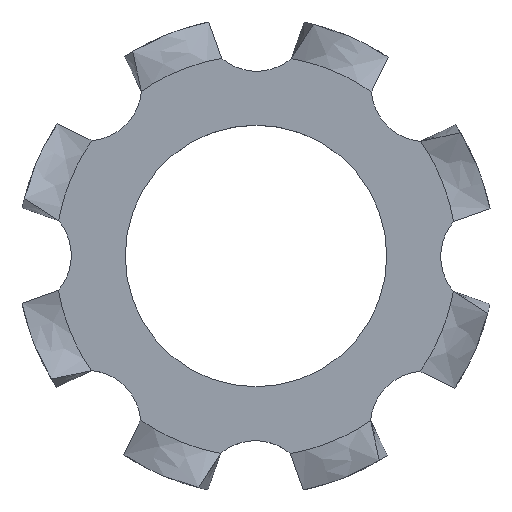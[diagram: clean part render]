
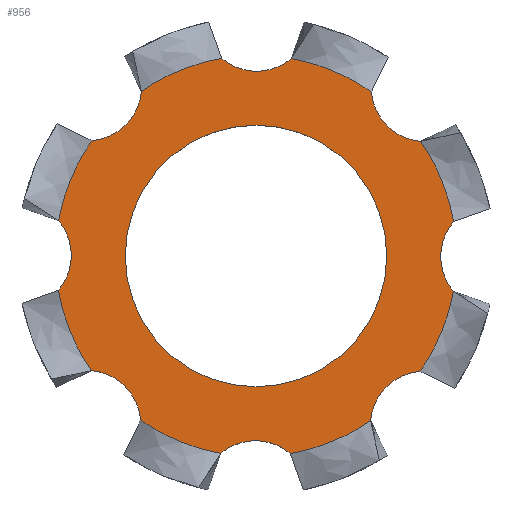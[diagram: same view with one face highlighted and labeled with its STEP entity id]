
A CAD part, top view. The second image highlights one B-rep face of the part: STEP entity #956.
In plain terms, the highlighted planar face has unit normal (0, 0, 1).
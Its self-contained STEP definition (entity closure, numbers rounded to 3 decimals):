
#15=FACE_BOUND('',#300,.T.);
#17=PLANE('',#1039);
#35=CIRCLE('',#996,4.2);
#36=CIRCLE('',#997,4.2);
#37=CIRCLE('',#998,4.2);
#38=CIRCLE('',#999,4.2);
#39=CIRCLE('',#1000,4.2);
#40=CIRCLE('',#1001,4.2);
#41=CIRCLE('',#1002,4.2);
#42=CIRCLE('',#1003,4.2);
#43=CIRCLE('',#1004,4.2);
#44=CIRCLE('',#1005,4.2);
#45=CIRCLE('',#1006,4.2);
#46=CIRCLE('',#1007,4.2);
#47=CIRCLE('',#1008,4.2);
#48=CIRCLE('',#1009,4.2);
#49=CIRCLE('',#1010,4.2);
#50=CIRCLE('',#1011,4.2);
#51=CIRCLE('',#1013,2.74);
#54=CIRCLE('',#1017,1.13);
#56=CIRCLE('',#1020,1.13);
#58=CIRCLE('',#1023,1.13);
#60=CIRCLE('',#1026,1.13);
#62=CIRCLE('',#1029,1.13);
#64=CIRCLE('',#1032,1.13);
#66=CIRCLE('',#1035,1.13);
#68=CIRCLE('',#1038,1.13);
#248=FACE_OUTER_BOUND('',#299,.T.);
#299=EDGE_LOOP('',(#840,#841,#842,#843,#844,#845,#846,#847,#848,#849,#850,
#851,#852,#853,#854,#855,#856,#857,#858,#859,#860,#861,#862,#863));
#300=EDGE_LOOP('',(#864));
#400=VERTEX_POINT('',#1577);
#404=VERTEX_POINT('',#1619);
#408=VERTEX_POINT('',#1661);
#412=VERTEX_POINT('',#1703);
#416=VERTEX_POINT('',#1745);
#420=VERTEX_POINT('',#1787);
#424=VERTEX_POINT('',#1829);
#428=VERTEX_POINT('',#1871);
#431=VERTEX_POINT('',#1911);
#432=VERTEX_POINT('',#1930);
#433=VERTEX_POINT('',#1949);
#434=VERTEX_POINT('',#1968);
#435=VERTEX_POINT('',#1987);
#436=VERTEX_POINT('',#2006);
#437=VERTEX_POINT('',#2025);
#438=VERTEX_POINT('',#2044);
#439=VERTEX_POINT('',#2063);
#440=VERTEX_POINT('',#2082);
#441=VERTEX_POINT('',#2101);
#442=VERTEX_POINT('',#2120);
#443=VERTEX_POINT('',#2139);
#444=VERTEX_POINT('',#2158);
#445=VERTEX_POINT('',#2177);
#446=VERTEX_POINT('',#2196);
#447=VERTEX_POINT('',#2200);
#547=EDGE_CURVE('',#432,#400,#35,.F.);
#548=EDGE_CURVE('',#431,#432,#36,.F.);
#551=EDGE_CURVE('',#434,#404,#37,.F.);
#552=EDGE_CURVE('',#433,#434,#38,.F.);
#555=EDGE_CURVE('',#436,#408,#39,.F.);
#556=EDGE_CURVE('',#435,#436,#40,.F.);
#559=EDGE_CURVE('',#438,#412,#41,.F.);
#560=EDGE_CURVE('',#437,#438,#42,.F.);
#563=EDGE_CURVE('',#440,#416,#43,.F.);
#564=EDGE_CURVE('',#439,#440,#44,.F.);
#567=EDGE_CURVE('',#442,#420,#45,.F.);
#568=EDGE_CURVE('',#441,#442,#46,.F.);
#571=EDGE_CURVE('',#444,#424,#47,.F.);
#572=EDGE_CURVE('',#443,#444,#48,.F.);
#575=EDGE_CURVE('',#446,#428,#49,.F.);
#576=EDGE_CURVE('',#445,#446,#50,.F.);
#577=EDGE_CURVE('',#447,#447,#51,.T.);
#581=EDGE_CURVE('',#404,#431,#54,.T.);
#583=EDGE_CURVE('',#408,#433,#56,.T.);
#585=EDGE_CURVE('',#412,#435,#58,.T.);
#587=EDGE_CURVE('',#416,#437,#60,.T.);
#589=EDGE_CURVE('',#420,#439,#62,.T.);
#591=EDGE_CURVE('',#424,#441,#64,.T.);
#593=EDGE_CURVE('',#428,#443,#66,.T.);
#595=EDGE_CURVE('',#400,#445,#68,.T.);
#840=ORIENTED_EDGE('',*,*,#548,.T.);
#841=ORIENTED_EDGE('',*,*,#547,.T.);
#842=ORIENTED_EDGE('',*,*,#595,.T.);
#843=ORIENTED_EDGE('',*,*,#576,.T.);
#844=ORIENTED_EDGE('',*,*,#575,.T.);
#845=ORIENTED_EDGE('',*,*,#593,.T.);
#846=ORIENTED_EDGE('',*,*,#572,.T.);
#847=ORIENTED_EDGE('',*,*,#571,.T.);
#848=ORIENTED_EDGE('',*,*,#591,.T.);
#849=ORIENTED_EDGE('',*,*,#568,.T.);
#850=ORIENTED_EDGE('',*,*,#567,.T.);
#851=ORIENTED_EDGE('',*,*,#589,.T.);
#852=ORIENTED_EDGE('',*,*,#564,.T.);
#853=ORIENTED_EDGE('',*,*,#563,.T.);
#854=ORIENTED_EDGE('',*,*,#587,.T.);
#855=ORIENTED_EDGE('',*,*,#560,.T.);
#856=ORIENTED_EDGE('',*,*,#559,.T.);
#857=ORIENTED_EDGE('',*,*,#585,.T.);
#858=ORIENTED_EDGE('',*,*,#556,.T.);
#859=ORIENTED_EDGE('',*,*,#555,.T.);
#860=ORIENTED_EDGE('',*,*,#583,.T.);
#861=ORIENTED_EDGE('',*,*,#552,.T.);
#862=ORIENTED_EDGE('',*,*,#551,.T.);
#863=ORIENTED_EDGE('',*,*,#581,.T.);
#864=ORIENTED_EDGE('',*,*,#577,.T.);
#956=ADVANCED_FACE('',(#248,#15),#17,.T.);
#996=AXIS2_PLACEMENT_3D('',#1931,#1125,#1126);
#997=AXIS2_PLACEMENT_3D('',#1932,#1127,#1128);
#998=AXIS2_PLACEMENT_3D('',#1969,#1131,#1132);
#999=AXIS2_PLACEMENT_3D('',#1970,#1133,#1134);
#1000=AXIS2_PLACEMENT_3D('',#2007,#1137,#1138);
#1001=AXIS2_PLACEMENT_3D('',#2008,#1139,#1140);
#1002=AXIS2_PLACEMENT_3D('',#2045,#1143,#1144);
#1003=AXIS2_PLACEMENT_3D('',#2046,#1145,#1146);
#1004=AXIS2_PLACEMENT_3D('',#2083,#1149,#1150);
#1005=AXIS2_PLACEMENT_3D('',#2084,#1151,#1152);
#1006=AXIS2_PLACEMENT_3D('',#2121,#1155,#1156);
#1007=AXIS2_PLACEMENT_3D('',#2122,#1157,#1158);
#1008=AXIS2_PLACEMENT_3D('',#2159,#1161,#1162);
#1009=AXIS2_PLACEMENT_3D('',#2160,#1163,#1164);
#1010=AXIS2_PLACEMENT_3D('',#2197,#1167,#1168);
#1011=AXIS2_PLACEMENT_3D('',#2198,#1169,#1170);
#1013=AXIS2_PLACEMENT_3D('',#2201,#1173,#1174);
#1017=AXIS2_PLACEMENT_3D('',#2207,#1182,#1183);
#1020=AXIS2_PLACEMENT_3D('',#2210,#1188,#1189);
#1023=AXIS2_PLACEMENT_3D('',#2213,#1194,#1195);
#1026=AXIS2_PLACEMENT_3D('',#2216,#1200,#1201);
#1029=AXIS2_PLACEMENT_3D('',#2219,#1206,#1207);
#1032=AXIS2_PLACEMENT_3D('',#2222,#1212,#1213);
#1035=AXIS2_PLACEMENT_3D('',#2225,#1218,#1219);
#1038=AXIS2_PLACEMENT_3D('',#2228,#1224,#1225);
#1039=AXIS2_PLACEMENT_3D('',#2229,#1226,#1227);
#1125=DIRECTION('center_axis',(0.,0.,-1.));
#1126=DIRECTION('ref_axis',(1.,0.,0.));
#1127=DIRECTION('center_axis',(0.,0.,-1.));
#1128=DIRECTION('ref_axis',(1.,0.,0.));
#1131=DIRECTION('center_axis',(0.,0.,-1.));
#1132=DIRECTION('ref_axis',(1.,0.,0.));
#1133=DIRECTION('center_axis',(0.,0.,-1.));
#1134=DIRECTION('ref_axis',(1.,0.,0.));
#1137=DIRECTION('center_axis',(0.,0.,-1.));
#1138=DIRECTION('ref_axis',(1.,0.,0.));
#1139=DIRECTION('center_axis',(0.,0.,-1.));
#1140=DIRECTION('ref_axis',(1.,0.,0.));
#1143=DIRECTION('center_axis',(0.,0.,-1.));
#1144=DIRECTION('ref_axis',(1.,0.,0.));
#1145=DIRECTION('center_axis',(0.,0.,-1.));
#1146=DIRECTION('ref_axis',(1.,0.,0.));
#1149=DIRECTION('center_axis',(0.,0.,-1.));
#1150=DIRECTION('ref_axis',(1.,0.,0.));
#1151=DIRECTION('center_axis',(0.,0.,-1.));
#1152=DIRECTION('ref_axis',(1.,0.,0.));
#1155=DIRECTION('center_axis',(0.,0.,-1.));
#1156=DIRECTION('ref_axis',(1.,0.,0.));
#1157=DIRECTION('center_axis',(0.,0.,-1.));
#1158=DIRECTION('ref_axis',(1.,0.,0.));
#1161=DIRECTION('center_axis',(0.,0.,-1.));
#1162=DIRECTION('ref_axis',(1.,0.,0.));
#1163=DIRECTION('center_axis',(0.,0.,-1.));
#1164=DIRECTION('ref_axis',(1.,0.,0.));
#1167=DIRECTION('center_axis',(0.,0.,-1.));
#1168=DIRECTION('ref_axis',(1.,0.,0.));
#1169=DIRECTION('center_axis',(0.,0.,-1.));
#1170=DIRECTION('ref_axis',(1.,0.,0.));
#1173=DIRECTION('center_axis',(0.,0.,-1.));
#1174=DIRECTION('ref_axis',(1.,0.,0.));
#1182=DIRECTION('center_axis',(0.,0.,-1.));
#1183=DIRECTION('ref_axis',(1.,0.,0.));
#1188=DIRECTION('center_axis',(0.,0.,-1.));
#1189=DIRECTION('ref_axis',(1.,0.,0.));
#1194=DIRECTION('center_axis',(0.,0.,-1.));
#1195=DIRECTION('ref_axis',(1.,0.,0.));
#1200=DIRECTION('center_axis',(0.,0.,-1.));
#1201=DIRECTION('ref_axis',(-0.707,-0.707,0.));
#1206=DIRECTION('center_axis',(0.,0.,-1.));
#1207=DIRECTION('ref_axis',(-1.,0.,0.));
#1212=DIRECTION('center_axis',(0.,0.,-1.));
#1213=DIRECTION('ref_axis',(-0.707,0.707,0.));
#1218=DIRECTION('center_axis',(0.,0.,-1.));
#1219=DIRECTION('ref_axis',(0.,1.,0.));
#1224=DIRECTION('center_axis',(0.,0.,-1.));
#1225=DIRECTION('ref_axis',(0.707,0.707,0.));
#1226=DIRECTION('center_axis',(0.,0.,1.));
#1227=DIRECTION('ref_axis',(1.,0.,0.));
#1577=CARTESIAN_POINT('',(-3.446,-2.4,0.6));
#1619=CARTESIAN_POINT('',(-4.134,0.74,0.6));
#1661=CARTESIAN_POINT('',(-2.4,3.446,0.6));
#1703=CARTESIAN_POINT('',(0.74,4.134,0.6));
#1745=CARTESIAN_POINT('',(3.446,2.4,0.6));
#1787=CARTESIAN_POINT('',(4.134,-0.74,0.6));
#1829=CARTESIAN_POINT('',(2.4,-3.446,0.6));
#1871=CARTESIAN_POINT('',(-0.74,-4.134,0.6));
#1911=CARTESIAN_POINT('',(-4.138,-0.718,0.6));
#1930=CARTESIAN_POINT('',(-3.863,-1.648,0.6));
#1931=CARTESIAN_POINT('Origin',(0.,0.,0.6));
#1932=CARTESIAN_POINT('Origin',(0.,0.,0.6));
#1949=CARTESIAN_POINT('',(-3.434,2.419,0.6));
#1968=CARTESIAN_POINT('',(-3.897,1.567,0.6));
#1969=CARTESIAN_POINT('Origin',(0.,0.,0.6));
#1970=CARTESIAN_POINT('Origin',(0.,0.,0.6));
#1987=CARTESIAN_POINT('',(-0.718,4.138,0.6));
#2006=CARTESIAN_POINT('',(-1.648,3.863,0.6));
#2007=CARTESIAN_POINT('Origin',(0.,0.,0.6));
#2008=CARTESIAN_POINT('Origin',(0.,0.,0.6));
#2025=CARTESIAN_POINT('',(2.419,3.434,0.6));
#2044=CARTESIAN_POINT('',(1.567,3.897,0.6));
#2045=CARTESIAN_POINT('Origin',(0.,0.,0.6));
#2046=CARTESIAN_POINT('Origin',(0.,0.,0.6));
#2063=CARTESIAN_POINT('',(4.138,0.718,0.6));
#2082=CARTESIAN_POINT('',(3.863,1.648,0.6));
#2083=CARTESIAN_POINT('Origin',(0.,0.,0.6));
#2084=CARTESIAN_POINT('Origin',(0.,0.,0.6));
#2101=CARTESIAN_POINT('',(3.434,-2.419,0.6));
#2120=CARTESIAN_POINT('',(3.897,-1.567,0.6));
#2121=CARTESIAN_POINT('Origin',(0.,0.,0.6));
#2122=CARTESIAN_POINT('Origin',(0.,0.,0.6));
#2139=CARTESIAN_POINT('',(0.718,-4.138,0.6));
#2158=CARTESIAN_POINT('',(1.648,-3.863,0.6));
#2159=CARTESIAN_POINT('Origin',(0.,0.,0.6));
#2160=CARTESIAN_POINT('Origin',(0.,0.,0.6));
#2177=CARTESIAN_POINT('',(-2.419,-3.434,0.6));
#2196=CARTESIAN_POINT('',(-1.567,-3.897,0.6));
#2197=CARTESIAN_POINT('Origin',(0.,0.,0.6));
#2198=CARTESIAN_POINT('Origin',(0.,0.,0.6));
#2200=CARTESIAN_POINT('',(-2.74,0.,0.6));
#2201=CARTESIAN_POINT('Origin',(0.,0.,0.6));
#2207=CARTESIAN_POINT('Origin',(-5.,0.013,0.6));
#2210=CARTESIAN_POINT('Origin',(-3.526,3.545,0.6));
#2213=CARTESIAN_POINT('Origin',(0.013,5.,0.6));
#2216=CARTESIAN_POINT('Origin',(3.545,3.526,0.6));
#2219=CARTESIAN_POINT('Origin',(5.,-0.013,0.6));
#2222=CARTESIAN_POINT('Origin',(3.526,-3.545,0.6));
#2225=CARTESIAN_POINT('Origin',(-0.013,-5.,0.6));
#2228=CARTESIAN_POINT('Origin',(-3.545,-3.526,0.6));
#2229=CARTESIAN_POINT('Origin',(0.,0.,0.6));
